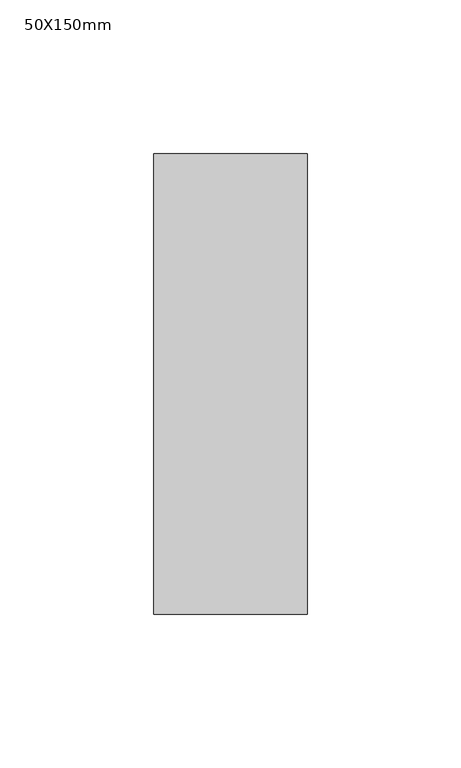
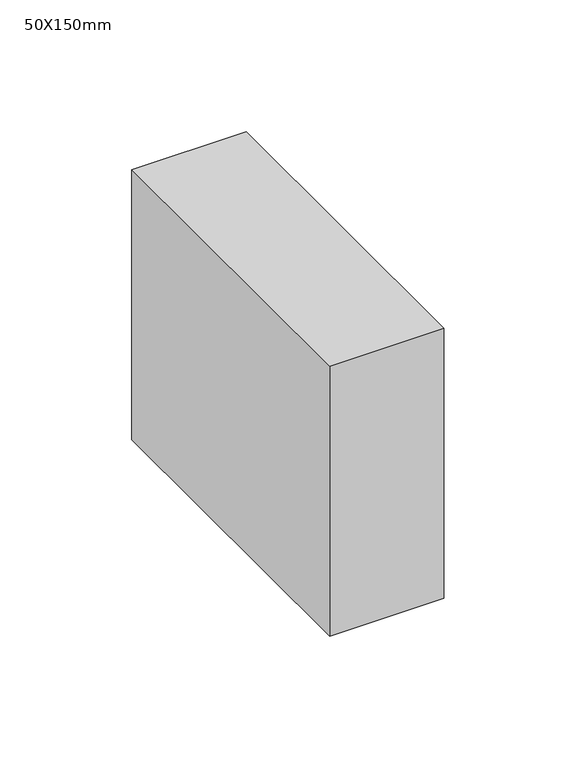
"""IFC4 building model written with IfcOpenShell, lengths in millimetres: member geometry, 矩形竖梃 : 50X150mm."""

import ifcopenshell
import ifcopenshell.guid

model = None  # the IFC model being written
_history = None  # IfcOwnerHistory: only IFC2X3 demands one
_inside = {}  # id of a spatial element -> (the spatial element, [elements in it])
_under = {}  # id of a project, library or spatial element -> (it, [spatial elements below it])
_declared = {}  # id of a project -> (the project, [libraries it declares])
_typed = {}  # id of a type object -> (the type object, [elements of that type])
_made_of = {}  # id of a material, layer set ... -> (it, [elements and type objects made of it])


def new_model(schema):
    """Start an empty IFC model of exactly this schema.

    Asked for "IFC4X3", IfcOpenShell would pick the latest addendum, in which some entities
    have other attributes; the version numbers below select the first issue.
    IFC2X3 requires an IfcOwnerHistory on every rooted entity: one is made here for all.
    """
    global model, _history
    if schema == "IFC4X3":
        model = ifcopenshell.file(schema_version=(4, 3, 0, 0))
    else:
        model = ifcopenshell.file(schema=schema)
    _inside.clear()
    _under.clear()
    _declared.clear()
    _typed.clear()
    _made_of.clear()
    _history = None
    if model.schema == "IFC2X3":
        org = make("IfcOrganization", Name="unknown")
        user = make(
            "IfcPersonAndOrganization",
            ThePerson=make("IfcPerson", FamilyName="unknown"),
            TheOrganization=org,
        )
        app = make(
            "IfcApplication",
            ApplicationDeveloper=org,
            Version="unknown",
            ApplicationFullName="unknown",
            ApplicationIdentifier="unknown",
        )
        _history = make(
            "IfcOwnerHistory",
            OwningUser=user,
            OwningApplication=app,
            ChangeAction="ADDED",
            CreationDate=0,
        )
    return model


def make(cls, **values):
    """One entity of the class cls with the attributes given. An attribute that is None is left unset."""
    return model.create_entity(
        cls, **{name: value for name, value in values.items() if value is not None}
    )


def rooted(cls, **values):
    """An entity with a GlobalId (a new one), such as an element, a storey or a relation."""
    return make(cls, GlobalId=ifcopenshell.guid.new(), OwnerHistory=_history, **values)


def si_unit(unit_type, name, prefix=None):
    """IfcSIUnit, for example si_unit("LENGTHUNIT", "METRE", prefix="MILLI")."""
    return make("IfcSIUnit", UnitType=unit_type, Prefix=prefix, Name=name)


def assignment(units):
    """IfcUnitAssignment: the units of a project."""
    return None if units is None else make("IfcUnitAssignment", Units=units)


def point(xyz):
    """IfcCartesianPoint."""
    return None if xyz is None else make("IfcCartesianPoint", Coordinates=xyz)


def direction(xyz):
    """IfcDirection."""
    return None if xyz is None else make("IfcDirection", DirectionRatios=xyz)


def frame(location, z_axis=None, x_axis=None):
    """IfcAxis2Placement3D, a coordinate frame: its origin and axes. An axis left out is left unset."""
    return make(
        "IfcAxis2Placement3D",
        Location=point(location),
        Axis=direction(z_axis),
        RefDirection=direction(x_axis),
    )


def origin():
    """The frame at (0, 0, 0) with its axes left unset."""
    return frame((0.0, 0.0, 0.0))


def place(relative_to, where):
    """IfcLocalPlacement: puts the frame where relative to a parent placement (None: the world)."""
    return make(
        "IfcLocalPlacement", PlacementRelTo=relative_to, RelativePlacement=where
    )


def context(
    kind, dimensions, precision=None, world=None, true_north=None, identifier=None
):
    """IfcGeometricRepresentationContext, for example the 3D "Model" context."""
    return make(
        "IfcGeometricRepresentationContext",
        ContextIdentifier=identifier,
        ContextType=kind,
        CoordinateSpaceDimension=dimensions,
        Precision=precision,
        WorldCoordinateSystem=world,
        TrueNorth=true_north,
    )


def project(units=None, contexts=None):
    """IfcProject with its units and contexts."""
    return rooted(
        "IfcProject",
        Name="project",
        RepresentationContexts=contexts,
        UnitsInContext=assignment(units),
    )


def spatial(cls, under=None, at=None, **own):
    """A site, building, storey or space (cls), placed at a placement, below another one or the project."""
    s = rooted(cls, ObjectPlacement=at, **own)
    if under is not None:
        _under.setdefault(under.id(), (under, []))[1].append(s)
    return s


def polyline(points):
    """IfcPolyline through the points."""
    return make("IfcPolyline", Points=[point(p) for p in points])


def outline(outer, holes=None, kind="AREA"):
    """IfcArbitraryClosedProfileDef: a profile drawn as a closed curve; with holes, ...WithVoids."""
    if holes is None:
        return make("IfcArbitraryClosedProfileDef", ProfileType=kind, OuterCurve=outer)
    return make(
        "IfcArbitraryProfileDefWithVoids",
        ProfileType=kind,
        OuterCurve=outer,
        InnerCurves=holes,
    )


def extrude(swept, where, along, depth):
    """IfcExtrudedAreaSolid: the profile swept, set in the frame where, extruded along a direction by depth."""
    return make(
        "IfcExtrudedAreaSolid",
        SweptArea=swept,
        Position=where,
        ExtrudedDirection=direction(along),
        Depth=depth,
    )


def shape(context_of_items, identifier, shape_type, items):
    """IfcShapeRepresentation: the items that make up one representation, for example the "Body"."""
    return make(
        "IfcShapeRepresentation",
        ContextOfItems=context_of_items,
        RepresentationIdentifier=identifier,
        RepresentationType=shape_type,
        Items=items,
    )


def source(mapping_origin, context_of_items, identifier, shape_type, items):
    """IfcRepresentationMap: a shape defined once, which mapped items show again and again."""
    return make(
        "IfcRepresentationMap",
        MappingOrigin=mapping_origin,
        MappedRepresentation=shape(context_of_items, identifier, shape_type, items),
    )


def transform(
    local_origin,
    x_axis=None,
    y_axis=None,
    z_axis=None,
    scale=None,
    scale2=None,
    scale3=None,
    uniform=True,
):
    """IfcCartesianTransformationOperator3D, or its non-uniform kind. x_axis, y_axis, z_axis: its Axis1, 2, 3."""
    if uniform:
        return make(
            "IfcCartesianTransformationOperator3D",
            Axis1=direction(x_axis),
            Axis2=direction(y_axis),
            LocalOrigin=point(local_origin),
            Scale=scale,
            Axis3=direction(z_axis),
        )
    return make(
        "IfcCartesianTransformationOperator3DnonUniform",
        Axis1=direction(x_axis),
        Axis2=direction(y_axis),
        LocalOrigin=point(local_origin),
        Scale=scale,
        Axis3=direction(z_axis),
        Scale2=scale2,
        Scale3=scale3,
    )


def mapped(mapping_source, mapping_target):
    """IfcMappedItem: shows the shape of a source again, moved by a transform."""
    return make(
        "IfcMappedItem", MappingSource=mapping_source, MappingTarget=mapping_target
    )


def made_of(thing, what):
    """Note that an element or type object is made of a material, layer set ...; save() writes the relation."""
    if what is not None:
        _made_of.setdefault(what.id(), (what, []))[1].append(thing)
    return thing


def element(
    cls,
    number,
    at=None,
    inside=None,
    cuts=None,
    type_object=None,
    material=None,
    context=None,
    identifier="Body",
    shape_type=None,
    held_by="IfcProductDefinitionShape",
    body=None,
    shapes=None,
    **own,
):
    """One element of the class cls, such as IfcWall. Its Tag is "e" and its number.

    at: its placement. inside: the storey or other place that contains it. cuts: it is an
    opening in that element (IfcRelVoidsElement). A single representation is given by context,
    identifier, shape_type and body (its items); several are given by shapes. held_by: the class
    of the entity that holds the representations. save() writes the other relations.
    """
    e = rooted(cls, Tag="e%d" % number, ObjectPlacement=at, **own)
    if body is not None:
        shapes = [shape(context, identifier, shape_type, body)]
    if shapes is not None:
        e.Representation = make(held_by, Representations=shapes)
    if inside is not None:
        _inside.setdefault(inside.id(), (inside, []))[1].append(e)
    if cuts is not None:
        rooted(
            "IfcRelVoidsElement", RelatingBuildingElement=cuts, RelatedOpeningElement=e
        )
    if type_object is not None:
        _typed.setdefault(type_object.id(), (type_object, []))[1].append(e)
    return made_of(e, material)


def aggregate(whole, parts):
    """IfcRelAggregates: a whole, such as a stair, and the parts it consists of."""
    return rooted("IfcRelAggregates", RelatingObject=whole, RelatedObjects=parts)


def save(model, path):
    """Write the relations noted so far, then the file.

    IfcRelAggregates (storeys below a building ...), IfcRelContainedInSpatialStructure (elements
    in a storey), IfcRelDefinesByType, IfcRelAssociatesMaterial and IfcRelDeclares: one each for
    every whole, place, type object, material and project.
    """
    for whole, parts in _under.values():
        aggregate(whole, parts)
    for where, things in _inside.values():
        rooted(
            "IfcRelContainedInSpatialStructure",
            RelatedElements=things,
            RelatingStructure=where,
        )
    for kind, things in _typed.values():
        rooted("IfcRelDefinesByType", RelatedObjects=things, RelatingType=kind)
    for what, things in _made_of.values():
        rooted("IfcRelAssociatesMaterial", RelatedObjects=things, RelatingMaterial=what)
    for by, libraries in _declared.values():
        rooted("IfcRelDeclares", RelatingContext=by, RelatedDefinitions=libraries)
    model.write(path)


def member_50x150mm_491df31a(model_context):
    return source(origin(), model_context, "Body", "SweptSolid", [
        extrude(outline(polyline([(25.0, 75.0), (25.0, -75.0), (-25.0, -75.0), (-25.0, 75.0), (25.0, 75.0)])), frame((0.0, 0.0, -125.0), z_axis=(0.0, 0.0, 1.0), x_axis=(1.0, 0.0, 0.0)), (0.0, 0.0, 1.0), 125.0),
    ])


if __name__ == "__main__":
    model = new_model("IFC4")
    model_context = context("Model", 3, world=origin())
    ifc_project = project(units=[si_unit("LENGTHUNIT", "METRE", prefix="MILLI")], contexts=[model_context])
    site = spatial("IfcSite", under=ifc_project)
    building = spatial("IfcBuilding", under=site)
    placement = place(None, origin())
    member_50x150mm_shape = member_50x150mm_491df31a(model_context)
    element("IfcMember", 1, ObjectType="矩形竖梃 : 50X150mm", at=placement, inside=building, context=model_context, shape_type="MappedRepresentation", body=[
        mapped(member_50x150mm_shape, transform((0.0, 0.0, 0.0), x_axis=(1.0, 0.0, 0.0), y_axis=(0.0, 1.0, 0.0), z_axis=(0.0, 0.0, 1.0))),
    ])
    save(model, "model.ifc")
